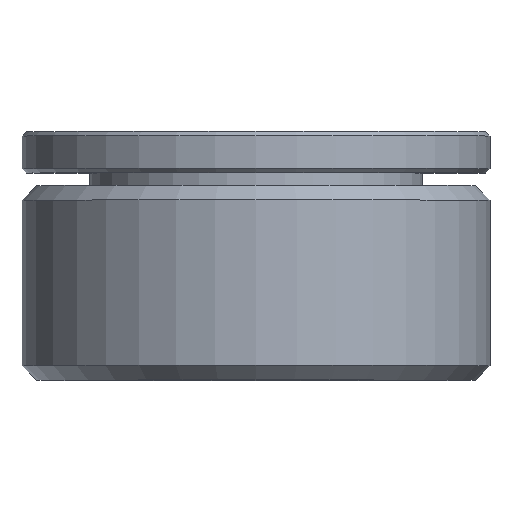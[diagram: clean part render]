
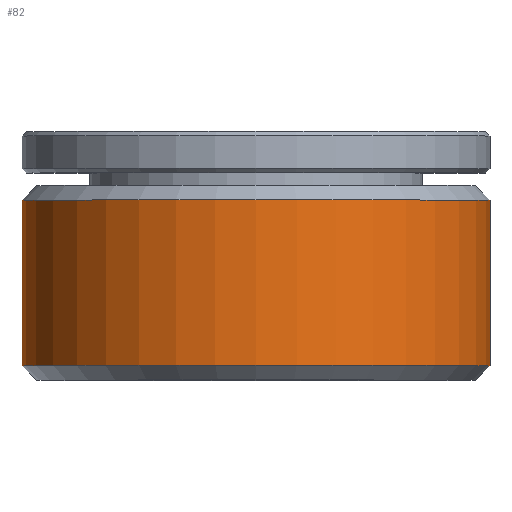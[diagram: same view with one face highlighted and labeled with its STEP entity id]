
A CAD part, top view. The second image highlights one B-rep face of the part: STEP entity #82.
In plain terms, the highlighted cylindrical face has radius 16 mm (diameter 32 mm), a full revolution.
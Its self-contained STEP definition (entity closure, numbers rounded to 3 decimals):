
#82 = ADVANCED_FACE( '', ( #120, #121 ), #122, .T. );
#120 = FACE_OUTER_BOUND( '', #189, .T. );
#121 = FACE_OUTER_BOUND( '', #190, .T. );
#122 = CYLINDRICAL_SURFACE( '', #191, 16. );
#189 = EDGE_LOOP( '', ( #272 ) );
#190 = EDGE_LOOP( '', ( #273 ) );
#191 = AXIS2_PLACEMENT_3D( '', #274, #275, #276 );
#272 = ORIENTED_EDGE( '', *, *, #360, .T. );
#273 = ORIENTED_EDGE( '', *, *, #359, .F. );
#274 = CARTESIAN_POINT( '', ( 0., 0., 0. ) );
#275 = DIRECTION( '', ( 0., 1., 0. ) );
#276 = DIRECTION( '', ( 0., 0., -1. ) );
#359 = EDGE_CURVE( '', #389, #389, #390, .T. );
#360 = EDGE_CURVE( '', #391, #391, #392, .T. );
#389 = VERTEX_POINT( '', #435 );
#390 = CIRCLE( '', #436, 16. );
#391 = VERTEX_POINT( '', #437 );
#392 = CIRCLE( '', #438, 16. );
#435 = CARTESIAN_POINT( '', ( 0., 1., -16. ) );
#436 = AXIS2_PLACEMENT_3D( '', #488, #489, #490 );
#437 = CARTESIAN_POINT( '', ( 0., 12.31, -16. ) );
#438 = AXIS2_PLACEMENT_3D( '', #491, #492, #493 );
#488 = CARTESIAN_POINT( '', ( 0., 1., 0. ) );
#489 = DIRECTION( '', ( 0., -1., 0. ) );
#490 = DIRECTION( '', ( 0., 0., -1. ) );
#491 = CARTESIAN_POINT( '', ( 0., 12.31, 0. ) );
#492 = DIRECTION( '', ( 0., -1., 0. ) );
#493 = DIRECTION( '', ( 0., 0., -1. ) );
